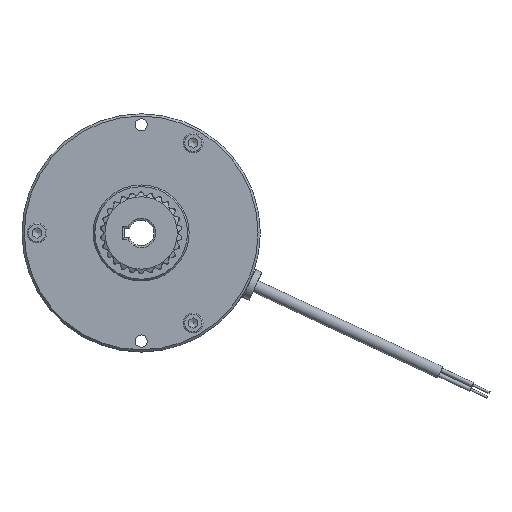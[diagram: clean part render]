
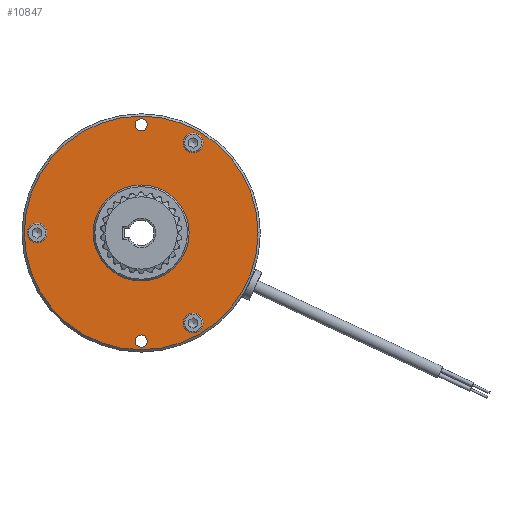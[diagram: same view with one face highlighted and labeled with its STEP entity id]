
A CAD part, left-side view. The second image highlights one B-rep face of the part: STEP entity #10847.
In plain terms, the highlighted planar face has unit normal (-1, 0, 0).
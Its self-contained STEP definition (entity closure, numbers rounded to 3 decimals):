
#2028=FACE_BOUND('',#2734,.T.);
#2029=FACE_BOUND('',#2735,.T.);
#2030=FACE_BOUND('',#2736,.T.);
#2031=FACE_BOUND('',#2737,.T.);
#2032=FACE_BOUND('',#2738,.T.);
#2033=FACE_BOUND('',#2739,.T.);
#2208=FACE_OUTER_BOUND('',#2733,.T.);
#2733=EDGE_LOOP('',(#7448));
#2734=EDGE_LOOP('',(#7449,#7450));
#2735=EDGE_LOOP('',(#7451,#7452));
#2736=EDGE_LOOP('',(#7453,#7454));
#2737=EDGE_LOOP('',(#7455,#7456));
#2738=EDGE_LOOP('',(#7457,#7458));
#2739=EDGE_LOOP('',(#7459));
#3122=CIRCLE('',#11236,4.25);
#3123=CIRCLE('',#11237,4.25);
#3136=CIRCLE('',#11264,4.25);
#3137=CIRCLE('',#11265,4.25);
#3150=CIRCLE('',#11292,4.25);
#3151=CIRCLE('',#11293,4.25);
#3283=CIRCLE('',#11539,2.65);
#3284=CIRCLE('',#11540,2.65);
#3286=CIRCLE('',#11543,2.65);
#3287=CIRCLE('',#11544,2.65);
#3289=CIRCLE('',#11547,50.5);
#3290=CIRCLE('',#11549,20.75);
#3798=VERTEX_POINT('',#15222);
#3799=VERTEX_POINT('',#15223);
#3825=VERTEX_POINT('',#15314);
#3826=VERTEX_POINT('',#15315);
#3852=VERTEX_POINT('',#15406);
#3853=VERTEX_POINT('',#15407);
#4071=VERTEX_POINT('',#16385);
#4072=VERTEX_POINT('',#16386);
#4074=VERTEX_POINT('',#16393);
#4075=VERTEX_POINT('',#16394);
#4077=VERTEX_POINT('',#16401);
#4078=VERTEX_POINT('',#16405);
#4946=EDGE_CURVE('',#3798,#3799,#3122,.T.);
#4947=EDGE_CURVE('',#3799,#3798,#3123,.T.);
#4983=EDGE_CURVE('',#3825,#3826,#3136,.T.);
#4984=EDGE_CURVE('',#3826,#3825,#3137,.T.);
#5020=EDGE_CURVE('',#3852,#3853,#3150,.T.);
#5021=EDGE_CURVE('',#3853,#3852,#3151,.T.);
#5340=EDGE_CURVE('',#4071,#4072,#3283,.T.);
#5341=EDGE_CURVE('',#4072,#4071,#3284,.T.);
#5344=EDGE_CURVE('',#4074,#4075,#3286,.T.);
#5345=EDGE_CURVE('',#4075,#4074,#3287,.T.);
#5349=EDGE_CURVE('',#4077,#4077,#3289,.T.);
#5350=EDGE_CURVE('',#4078,#4078,#3290,.T.);
#7448=ORIENTED_EDGE('',*,*,#5349,.F.);
#7449=ORIENTED_EDGE('',*,*,#4946,.T.);
#7450=ORIENTED_EDGE('',*,*,#4947,.T.);
#7451=ORIENTED_EDGE('',*,*,#4983,.T.);
#7452=ORIENTED_EDGE('',*,*,#4984,.T.);
#7453=ORIENTED_EDGE('',*,*,#5020,.T.);
#7454=ORIENTED_EDGE('',*,*,#5021,.T.);
#7455=ORIENTED_EDGE('',*,*,#5340,.T.);
#7456=ORIENTED_EDGE('',*,*,#5341,.T.);
#7457=ORIENTED_EDGE('',*,*,#5344,.T.);
#7458=ORIENTED_EDGE('',*,*,#5345,.T.);
#7459=ORIENTED_EDGE('',*,*,#5350,.T.);
#10141=PLANE('',#11548);
#10847=ADVANCED_FACE('',(#2208,#2028,#2029,#2030,#2031,#2032,#2033),#10141,
 .T.);
#11236=AXIS2_PLACEMENT_3D('',#15224,#12384,#12385);
#11237=AXIS2_PLACEMENT_3D('',#15225,#12386,#12387);
#11264=AXIS2_PLACEMENT_3D('',#15316,#12456,#12457);
#11265=AXIS2_PLACEMENT_3D('',#15317,#12458,#12459);
#11292=AXIS2_PLACEMENT_3D('',#15408,#12528,#12529);
#11293=AXIS2_PLACEMENT_3D('',#15409,#12530,#12531);
#11539=AXIS2_PLACEMENT_3D('',#16387,#13157,#13158);
#11540=AXIS2_PLACEMENT_3D('',#16388,#13159,#13160);
#11543=AXIS2_PLACEMENT_3D('',#16395,#13166,#13167);
#11544=AXIS2_PLACEMENT_3D('',#16396,#13168,#13169);
#11547=AXIS2_PLACEMENT_3D('',#16403,#13176,#13177);
#11548=AXIS2_PLACEMENT_3D('',#16404,#13178,#13179);
#11549=AXIS2_PLACEMENT_3D('',#16406,#13180,#13181);
#12384=DIRECTION('center_axis',(1.,0.,0.));
#12385=DIRECTION('ref_axis',(0.,-1.,0.));
#12386=DIRECTION('center_axis',(1.,0.,0.));
#12387=DIRECTION('ref_axis',(0.,-1.,0.));
#12456=DIRECTION('center_axis',(1.,0.,0.));
#12457=DIRECTION('ref_axis',(0.,-0.5,-0.866));
#12458=DIRECTION('center_axis',(1.,0.,0.));
#12459=DIRECTION('ref_axis',(0.,-0.5,-0.866));
#12528=DIRECTION('center_axis',(1.,0.,0.));
#12529=DIRECTION('ref_axis',(0.,-1.,0.));
#12530=DIRECTION('center_axis',(1.,0.,0.));
#12531=DIRECTION('ref_axis',(0.,-1.,0.));
#13157=DIRECTION('center_axis',(1.,0.,0.));
#13158=DIRECTION('ref_axis',(0.,0.,
1.));
#13159=DIRECTION('center_axis',(1.,0.,0.));
#13160=DIRECTION('ref_axis',(0.,0.,
1.));
#13166=DIRECTION('center_axis',(1.,0.,0.));
#13167=DIRECTION('ref_axis',(0.,0.,
1.));
#13168=DIRECTION('center_axis',(1.,0.,0.));
#13169=DIRECTION('ref_axis',(0.,0.,
1.));
#13176=DIRECTION('center_axis',(1.,0.,0.));
#13177=DIRECTION('ref_axis',(0.,-1.,0.));
#13178=DIRECTION('center_axis',(-1.,0.,0.));
#13179=DIRECTION('ref_axis',(0.,0.,
1.));
#13180=DIRECTION('center_axis',(1.,0.,0.));
#13181=DIRECTION('ref_axis',(0.,0.,
1.));
#15222=CARTESIAN_POINT('',(-18.2,-26.75,-38.971));
#15223=CARTESIAN_POINT('',(-18.2,-18.25,-38.971));
#15224=CARTESIAN_POINT('Origin',(-18.2,-22.5,-38.971));
#15225=CARTESIAN_POINT('Origin',(-18.2,-22.5,-38.971));
#15314=CARTESIAN_POINT('',(-18.2,42.875,-3.681));
#15315=CARTESIAN_POINT('',(-18.2,47.125,3.681));
#15316=CARTESIAN_POINT('Origin',(-18.2,45.,0.));
#15317=CARTESIAN_POINT('Origin',(-18.2,45.,0.));
#15406=CARTESIAN_POINT('',(-18.2,-26.75,38.971));
#15407=CARTESIAN_POINT('',(-18.2,-18.25,38.971));
#15408=CARTESIAN_POINT('Origin',(-18.2,-22.5,38.971));
#15409=CARTESIAN_POINT('Origin',(-18.2,-22.5,38.971));
#16385=CARTESIAN_POINT('',(-18.2,0.,-44.1));
#16386=CARTESIAN_POINT('',(-18.2,0.,-49.4));
#16387=CARTESIAN_POINT('Origin',(-18.2,0.,-46.75));
#16388=CARTESIAN_POINT('Origin',(-18.2,0.,-46.75));
#16393=CARTESIAN_POINT('',(-18.2,0.,49.4));
#16394=CARTESIAN_POINT('',(-18.2,0.,44.1));
#16395=CARTESIAN_POINT('Origin',(-18.2,0.,46.75));
#16396=CARTESIAN_POINT('Origin',(-18.2,0.,46.75));
#16401=CARTESIAN_POINT('',(-18.2,50.5,0.));
#16403=CARTESIAN_POINT('Origin',(-18.2,0.,0.));
#16404=CARTESIAN_POINT('Origin',(-18.2,25.75,0.));
#16405=CARTESIAN_POINT('',(-18.2,0.,-20.75));
#16406=CARTESIAN_POINT('Origin',(-18.2,0.,0.));
